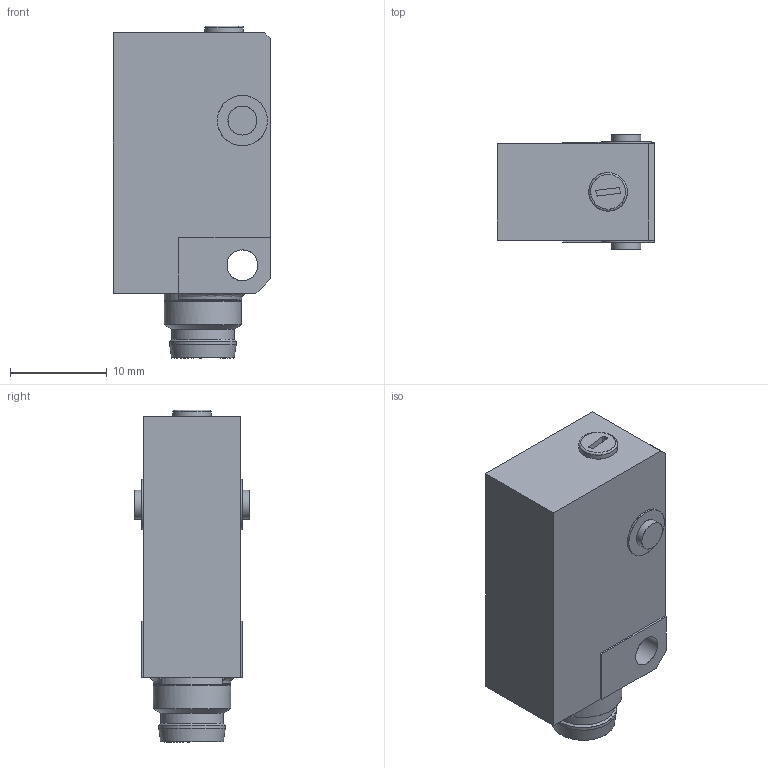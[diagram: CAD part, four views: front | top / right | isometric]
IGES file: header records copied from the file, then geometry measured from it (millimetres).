
Start section: C
Global section: file name: OZDK 10_S35A.igs; native system:  By UGS Corp.; preprocessor: XPlus GENERIC/IGES 3.0; author: Author; organization: Title; date: 20160202.102519; units: millimetre
Bounding box: 16.35 x 12 x 34.4 mm (x, y, z)
Surface area: 2166.3 mm2 (no closed solid volume)
Topology: 0 solids, 0 shells, 126 faces, 692 edges, 692 vertices
Faces by surface type: bspline 126
